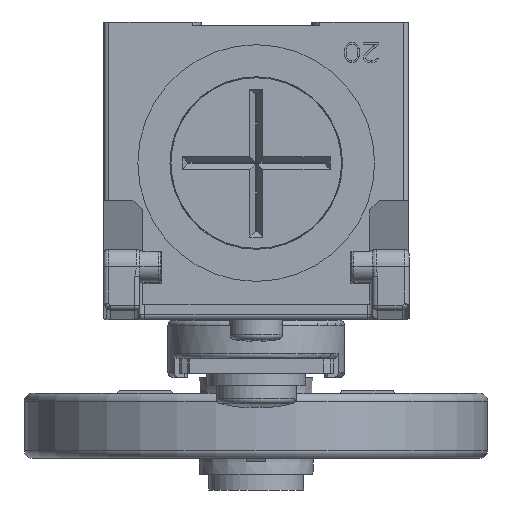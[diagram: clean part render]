
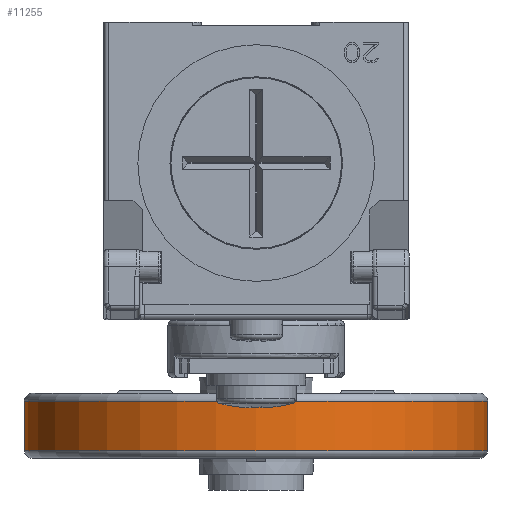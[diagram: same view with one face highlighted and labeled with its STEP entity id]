
A CAD part, front view. The second image highlights one B-rep face of the part: STEP entity #11255.
In plain terms, the highlighted cylindrical face has radius 23.48 mm (diameter 46.96 mm), a partial arc.
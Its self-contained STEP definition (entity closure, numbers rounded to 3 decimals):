
#1266=CYLINDRICAL_SURFACE('',#43940,23.48);
#5578=LINE('',#74369,#9081);
#5579=LINE('',#74373,#9082);
#9081=VECTOR('',#55120,1.);
#9082=VECTOR('',#55123,1.);
#11255=ADVANCED_FACE('',(#14380),#1266,.T.);
#14380=FACE_OUTER_BOUND('',#16569,.T.);
#16569=EDGE_LOOP('',(#28219,#28220,#28221,#28222));
#28219=ORIENTED_EDGE('',*,*,#38183,.F.);
#28220=ORIENTED_EDGE('',*,*,#38184,.T.);
#28221=ORIENTED_EDGE('',*,*,#38181,.T.);
#28222=ORIENTED_EDGE('',*,*,#38178,.F.);
#32305=VERTEX_POINT('',#74362);
#32306=VERTEX_POINT('',#74364);
#32307=VERTEX_POINT('',#74370);
#32308=VERTEX_POINT('',#74372);
#38178=EDGE_CURVE('',#32305,#32306,#40071,.T.);
#38181=EDGE_CURVE('',#32307,#32306,#5578,.T.);
#38183=EDGE_CURVE('',#32308,#32305,#5579,.T.);
#38184=EDGE_CURVE('',#32308,#32307,#40075,.T.);
#40071=CIRCLE('',#43932,23.48);
#40075=CIRCLE('',#43939,23.48);
#43932=AXIS2_PLACEMENT_3D('',#74363,#55110,#55111);
#43939=AXIS2_PLACEMENT_3D('',#74375,#55126,#55127);
#43940=AXIS2_PLACEMENT_3D('',#74376,#55128,#55129);
#55110=DIRECTION('',(0.,0.,1.));
#55111=DIRECTION('',(-1.,0.,0.));
#55120=DIRECTION('',(0.,0.,1.));
#55123=DIRECTION('',(0.,0.,1.));
#55126=DIRECTION('',(0.,0.,1.));
#55127=DIRECTION('',(-1.,0.,0.));
#55128=DIRECTION('',(0.,0.,-1.));
#55129=DIRECTION('',(1.,0.,0.));
#74362=CARTESIAN_POINT('',(-23.48,0.,-2.4));
#74363=CARTESIAN_POINT('',(0.,0.,-2.4));
#74364=CARTESIAN_POINT('',(23.48,0.,-2.4));
#74369=CARTESIAN_POINT('',(23.48,0.,-7.4));
#74370=CARTESIAN_POINT('',(23.48,0.,-7.4));
#74372=CARTESIAN_POINT('',(-23.48,0.,-7.4));
#74373=CARTESIAN_POINT('',(-23.48,0.,-7.4));
#74375=CARTESIAN_POINT('',(0.,0.,-7.4));
#74376=CARTESIAN_POINT('',(0.,0.,0.41));
